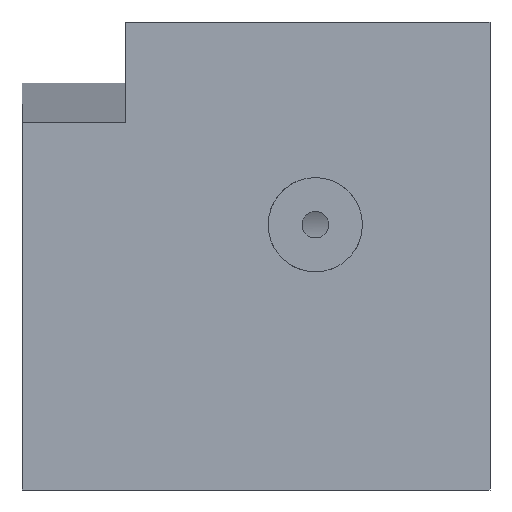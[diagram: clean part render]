
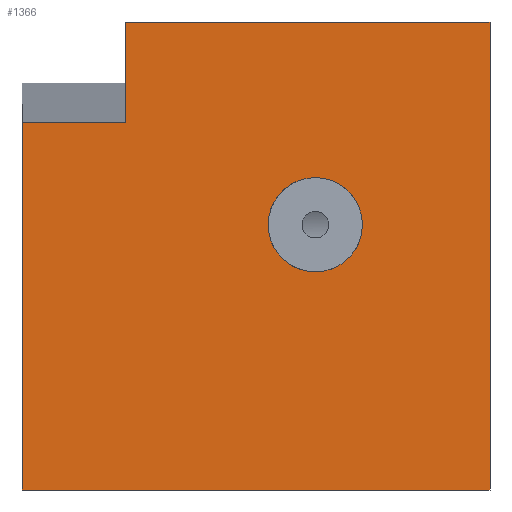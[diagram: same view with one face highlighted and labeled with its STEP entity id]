
A CAD part, front view. The second image highlights one B-rep face of the part: STEP entity #1366.
In plain terms, the highlighted planar face has unit normal (0, -1, 0).
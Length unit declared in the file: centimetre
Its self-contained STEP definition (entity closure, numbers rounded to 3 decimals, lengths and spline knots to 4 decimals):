
#36 = ORIENTED_EDGE ( 'NONE', *, *, #1583, .F. ) ;
#88 = DIRECTION ( 'NONE',  ( 0., 0., 1. ) ) ;
#95 = DIRECTION ( 'NONE',  ( -1., 0., 0. ) ) ;
#108 = DIRECTION ( 'NONE',  ( 1., 0., 0. ) ) ;
#118 = CARTESIAN_POINT ( 'NONE',  ( 0., 0., 1000. ) ) ;
#120 = VECTOR ( 'NONE', #95, 100. ) ;
#123 = ORIENTED_EDGE ( 'NONE', *, *, #237, .T. ) ;
#135 = AXIS2_PLACEMENT_3D ( 'NONE', #1002, #1777, #401 ) ;
#226 = ORIENTED_EDGE ( 'NONE', *, *, #1399, .T. ) ;
#230 = CIRCLE ( 'NONE', #135, 100.7425 ) ;
#236 = VERTEX_POINT ( 'NONE', #1884 ) ;
#237 = EDGE_CURVE ( 'NONE', #810, #1396, #834, .T. ) ;
#265 = EDGE_LOOP ( 'NONE', ( #804, #226, #675, #123, #36, #1064 ) ) ;
#270 = CARTESIAN_POINT ( 'NONE',  ( 0., 0., 1000. ) ) ;
#287 = DIRECTION ( 'NONE',  ( 0., 0., -1. ) ) ;
#332 = EDGE_CURVE ( 'NONE', #1940, #1437, #1158, .T. ) ;
#391 = ORIENTED_EDGE ( 'NONE', *, *, #847, .F. ) ;
#396 = CARTESIAN_POINT ( 'NONE',  ( 626.6999, 0., 667.4763 ) ) ;
#401 = DIRECTION ( 'NONE',  ( 0., 0., -1. ) ) ;
#408 = DIRECTION ( 'NONE',  ( 0., 1., 0. ) ) ;
#415 = DIRECTION ( 'NONE',  ( 0., -1., 0. ) ) ;
#449 = VERTEX_POINT ( 'NONE', #396 ) ;
#480 = CIRCLE ( 'NONE', #1407, 100.7425 ) ;
#497 = EDGE_LOOP ( 'NONE', ( #1713, #391 ) ) ;
#542 = VECTOR ( 'NONE', #1922, 100. ) ;
#600 = FACE_OUTER_BOUND ( 'NONE', #265, .T. ) ;
#675 = ORIENTED_EDGE ( 'NONE', *, *, #721, .T. ) ;
#721 = EDGE_CURVE ( 'NONE', #1223, #810, #1643, .T. ) ;
#726 = LINE ( 'NONE', #1470, #120 ) ;
#737 = LINE ( 'NONE', #118, #1559 ) ;
#745 = CARTESIAN_POINT ( 'NONE',  ( 221.9566, 0., 1000. ) ) ;
#804 = ORIENTED_EDGE ( 'NONE', *, *, #332, .F. ) ;
#810 = VERTEX_POINT ( 'NONE', #1928 ) ;
#834 = LINE ( 'NONE', #1426, #917 ) ;
#847 = EDGE_CURVE ( 'NONE', #449, #236, #480, .T. ) ;
#917 = VECTOR ( 'NONE', #1740, 100. ) ;
#1002 = CARTESIAN_POINT ( 'NONE',  ( 626.6999, 0., 566.7338 ) ) ;
#1008 = DIRECTION ( 'NONE',  ( 0., 0., 1. ) ) ;
#1011 = VECTOR ( 'NONE', #1860, 100. ) ;
#1013 = VECTOR ( 'NONE', #88, 100. ) ;
#1021 = FACE_BOUND ( 'NONE', #497, .T. ) ;
#1064 = ORIENTED_EDGE ( 'NONE', *, *, #1435, .F. ) ;
#1100 = AXIS2_PLACEMENT_3D ( 'NONE', #270, #408, #1008 ) ;
#1109 = LINE ( 'NONE', #1564, #1011 ) ;
#1147 = EDGE_CURVE ( 'NONE', #236, #449, #230, .T. ) ;
#1154 = CARTESIAN_POINT ( 'NONE',  ( 0., 0., 785.4894 ) ) ;
#1158 = LINE ( 'NONE', #1295, #1013 ) ;
#1223 = VERTEX_POINT ( 'NONE', #1154 ) ;
#1295 = CARTESIAN_POINT ( 'NONE',  ( 221.9566, 0., 785.4894 ) ) ;
#1321 = CARTESIAN_POINT ( 'NONE',  ( 626.6999, 0., 566.7338 ) ) ;
#1366 = ADVANCED_FACE ( 'NONE', ( #1021, #600 ), #1629, .F. ) ;
#1396 = VERTEX_POINT ( 'NONE', #1479 ) ;
#1399 = EDGE_CURVE ( 'NONE', #1940, #1223, #726, .T. ) ;
#1407 = AXIS2_PLACEMENT_3D ( 'NONE', #1321, #415, #287 ) ;
#1423 = CARTESIAN_POINT ( 'NONE',  ( 221.9566, 0., 785.4894 ) ) ;
#1426 = CARTESIAN_POINT ( 'NONE',  ( 0., 0., 0. ) ) ;
#1435 = EDGE_CURVE ( 'NONE', #1437, #1761, #737, .T. ) ;
#1437 = VERTEX_POINT ( 'NONE', #745 ) ;
#1470 = CARTESIAN_POINT ( 'NONE',  ( 221.9566, 0., 785.4894 ) ) ;
#1479 = CARTESIAN_POINT ( 'NONE',  ( 1000., 0., 0. ) ) ;
#1559 = VECTOR ( 'NONE', #108, 100. ) ;
#1564 = CARTESIAN_POINT ( 'NONE',  ( 1000., 0., 1000. ) ) ;
#1583 = EDGE_CURVE ( 'NONE', #1761, #1396, #1109, .T. ) ;
#1629 = PLANE ( 'NONE',  #1100 ) ;
#1643 = LINE ( 'NONE', #1796, #542 ) ;
#1713 = ORIENTED_EDGE ( 'NONE', *, *, #1147, .F. ) ;
#1740 = DIRECTION ( 'NONE',  ( 1., 0., 0. ) ) ;
#1761 = VERTEX_POINT ( 'NONE', #1765 ) ;
#1765 = CARTESIAN_POINT ( 'NONE',  ( 1000., 0., 1000. ) ) ;
#1777 = DIRECTION ( 'NONE',  ( 0., -1., 0. ) ) ;
#1796 = CARTESIAN_POINT ( 'NONE',  ( 0., 0., 1000. ) ) ;
#1860 = DIRECTION ( 'NONE',  ( 0., 0., -1. ) ) ;
#1884 = CARTESIAN_POINT ( 'NONE',  ( 626.6999, 0., 465.9914 ) ) ;
#1922 = DIRECTION ( 'NONE',  ( 0., 0., -1. ) ) ;
#1928 = CARTESIAN_POINT ( 'NONE',  ( 0., 0., 0. ) ) ;
#1940 = VERTEX_POINT ( 'NONE', #1423 ) ;
